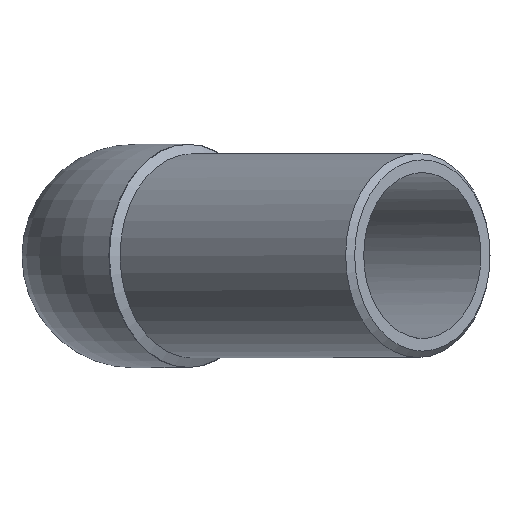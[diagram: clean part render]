
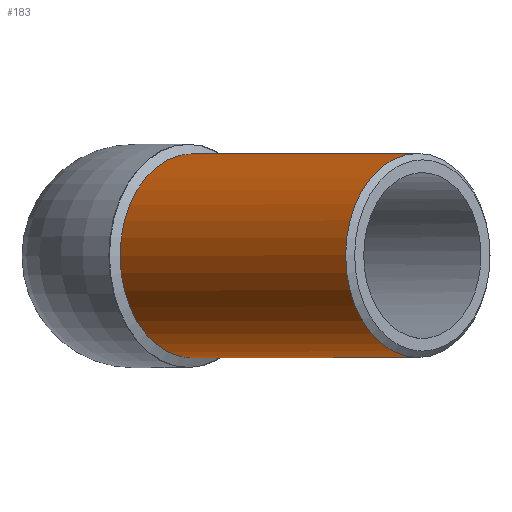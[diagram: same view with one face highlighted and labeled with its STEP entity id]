
A CAD part, top view. The second image highlights one B-rep face of the part: STEP entity #183.
In plain terms, the highlighted cylindrical face has radius 16 mm (diameter 32 mm), a full revolution.
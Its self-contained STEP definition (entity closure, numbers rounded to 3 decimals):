
#29=CYLINDRICAL_SURFACE('',#212,16.);
#37=ORIENTED_EDGE('',*,*,#75,.F.);
#38=ORIENTED_EDGE('',*,*,#73,.F.);
#73=EDGE_CURVE('',#92,#92,#110,.T.);
#75=EDGE_CURVE('',#94,#94,#112,.F.);
#92=VERTEX_POINT('',#301);
#94=VERTEX_POINT('',#306);
#110=CIRCLE('',#210,16.);
#112=CIRCLE('',#213,16.);
#126=EDGE_LOOP('',(#37));
#127=EDGE_LOOP('',(#38));
#153=FACE_BOUND('',#126,.T.);
#154=FACE_BOUND('',#127,.T.);
#183=ADVANCED_FACE('',(#153,#154),#29,.T.);
#210=AXIS2_PLACEMENT_3D('',#300,#242,#243);
#212=AXIS2_PLACEMENT_3D('',#304,#246,#247);
#213=AXIS2_PLACEMENT_3D('',#305,#248,#249);
#242=DIRECTION('',(-0.707,0.,-0.707));
#243=DIRECTION('',(-0.707,0.,0.707));
#246=DIRECTION('',(0.707,0.,0.707));
#247=DIRECTION('',(-0.707,0.,0.707));
#248=DIRECTION('',(-0.707,0.,-0.707));
#249=DIRECTION('',(-0.707,0.,0.707));
#300=CARTESIAN_POINT('',(9.192,0.,9.192));
#301=CARTESIAN_POINT('',(-2.121,0.,20.506));
#304=CARTESIAN_POINT('',(44.852,0.,44.852));
#305=CARTESIAN_POINT('',(44.548,0.,44.548));
#306=CARTESIAN_POINT('',(33.234,0.,55.861));
